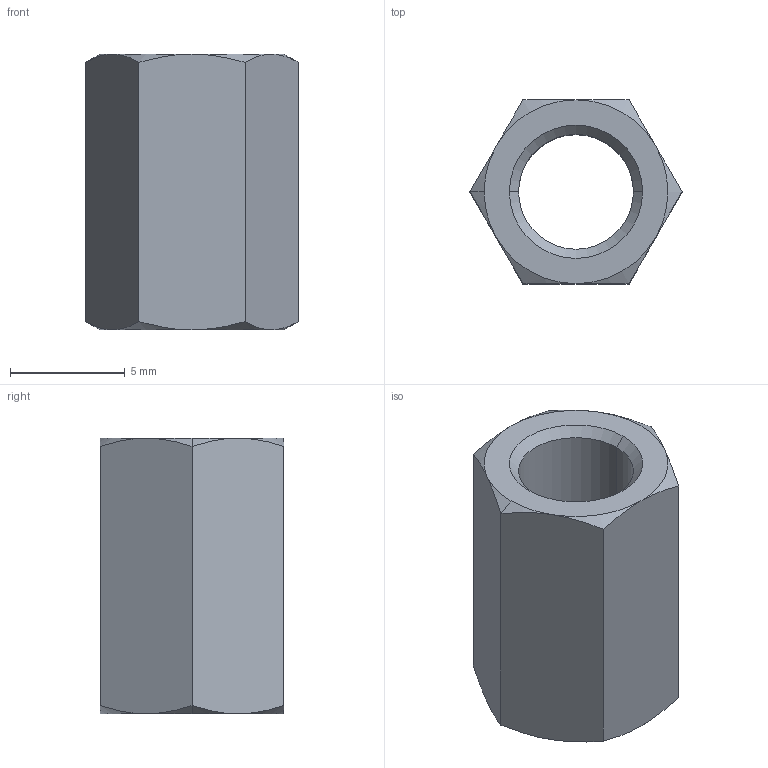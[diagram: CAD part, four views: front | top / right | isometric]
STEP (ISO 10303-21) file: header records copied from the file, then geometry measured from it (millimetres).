
FILE_DESCRIPTION (( 'STEP AP203' ), '1' );
FILE_NAME ('N0503.050-012-NP.step', '2025-02-27T14:43:58', ( '' ), ( '' ), 'SwSTEP 2.0', 'SolidWorks 2019', '' );
FILE_SCHEMA (( 'CONFIG_CONTROL_DESIGN' ));
Length unit declared in the file: millimetre
Products named in the file (1): N0503.050-012-NP
Bounding box: 9.24 x 8 x 12 mm (x, y, z)
Volume: 425.7 mm3; surface area: 580.5 mm2
Topology: 1 solids, 1 shells, 28 faces, 60 edges, 34 vertices
Faces by surface type: cone 18, plane 8, cylinder 2
Entity records: 879 total; most frequent: CARTESIAN_POINT 227, ORIENTED_EDGE 120, DIRECTION 116, EDGE_CURVE 60, AXIS2_PLACEMENT_3D 51, VERTEX_POINT 34, EDGE_LOOP 30, ADVANCED_FACE 28
